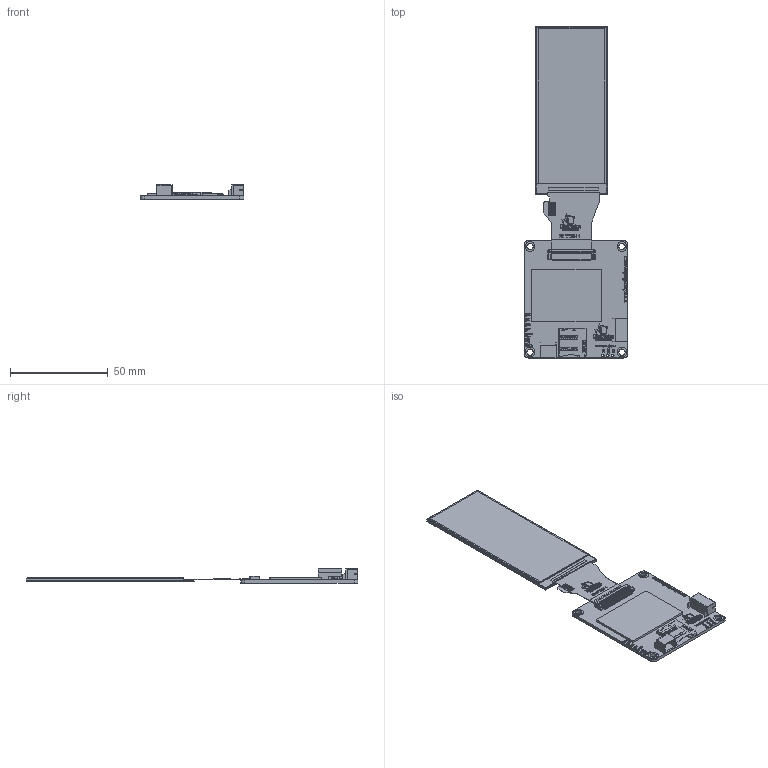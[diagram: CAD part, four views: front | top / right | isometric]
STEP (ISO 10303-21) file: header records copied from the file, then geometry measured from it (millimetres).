
FILE_DESCRIPTION (( 'STEP AP214' ), '1' );
FILE_NAME ('ER-TFT034-1-5982.STEP', '2024-06-15T03:27:57', ( '微软用户' ), ( '微软中国' ), 'SwSTEP 2.0', 'SolidWorks 2023', '' );
FILE_SCHEMA (( 'AUTOMOTIVE_DESIGN' ));
Length unit declared in the file: millimetre
Products named in the file (4): ER-TFT034-1-5982; ER-CON40HT-1; ER-TFT034-1; ER-PCBA5982-1
Assembly tree (3 placements, depth 2):
  ER-TFT034-1-5982
    ER-PCBA5982-1
    ER-CON40HT-1
    ER-TFT034-1
Bounding box: 53 x 169.68 x 7.2 mm (x, y, z)
Volume: 12698.4 mm3; surface area: 24818.6 mm2
Topology: 166 solids, 166 shells, 5138 faces, 14852 edges, 9771 vertices
Faces by surface type: plane 3596, bspline 1064, cylinder 478
Entity records: 242928 total; most frequent: CARTESIAN_POINT 76835, ORIENTED_EDGE 29696, DIRECTION 21680, EDGE_CURVE 14848, VECTOR 11696, LINE 11696, VERTEX_POINT 9771, EDGE_LOOP 5435
